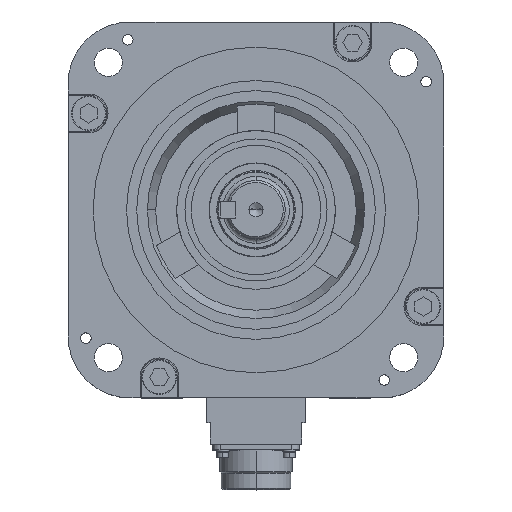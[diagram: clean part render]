
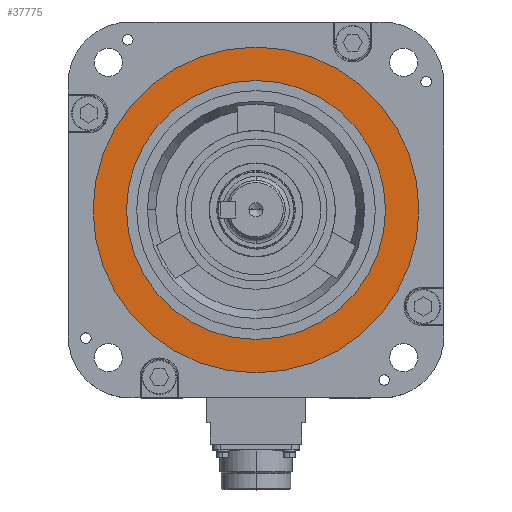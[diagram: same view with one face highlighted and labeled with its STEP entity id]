
A CAD part, top view. The second image highlights one B-rep face of the part: STEP entity #37775.
In plain terms, the highlighted planar face has unit normal (0, 0, 1).
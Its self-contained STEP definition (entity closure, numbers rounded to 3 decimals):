
#576 = DIRECTION ( 'NONE',  ( 0., 0., -1. ) ) ;
#1194 = DIRECTION ( 'NONE',  ( 1., 0., 0. ) ) ;
#2817 = EDGE_LOOP ( 'NONE', ( #29397, #26779 ) ) ;
#2958 = CARTESIAN_POINT ( 'NONE',  ( -62., 0., -0.5 ) ) ;
#3157 = EDGE_CURVE ( 'NONE', #36955, #32010, #3349, .T. ) ;
#3349 = CIRCLE ( 'NONE', #26756, 62. ) ;
#3446 = CARTESIAN_POINT ( 'NONE',  ( 0., 0., -0.5 ) ) ;
#4073 = CIRCLE ( 'NONE', #12555, 62. ) ;
#4376 = EDGE_CURVE ( 'NONE', #27168, #16687, #20322, .T. ) ;
#4964 = CARTESIAN_POINT ( 'NONE',  ( 0., 0., -0.5 ) ) ;
#5950 = CARTESIAN_POINT ( 'NONE',  ( 78., 0., -0.5 ) ) ;
#6302 = DIRECTION ( 'NONE',  ( 1., 0., 0. ) ) ;
#7089 = CARTESIAN_POINT ( 'NONE',  ( 62., 0., -0.5 ) ) ;
#10925 = EDGE_LOOP ( 'NONE', ( #34497, #34754 ) ) ;
#12555 = AXIS2_PLACEMENT_3D ( 'NONE', #4964, #17427, #38779 ) ;
#13045 = CARTESIAN_POINT ( 'NONE',  ( 0., 0., -0.5 ) ) ;
#16687 = VERTEX_POINT ( 'NONE', #21493 ) ;
#17168 = AXIS2_PLACEMENT_3D ( 'NONE', #20335, #38822, #22988 ) ;
#17427 = DIRECTION ( 'NONE',  ( 0., 0., -1. ) ) ;
#18847 = AXIS2_PLACEMENT_3D ( 'NONE', #3446, #34195, #6302 ) ;
#19760 = CARTESIAN_POINT ( 'NONE',  ( 0., 0., -0.5 ) ) ;
#20322 = CIRCLE ( 'NONE', #39767, 78. ) ;
#20335 = CARTESIAN_POINT ( 'NONE',  ( -78.936, -78.936, -0.5 ) ) ;
#21127 = EDGE_CURVE ( 'NONE', #32010, #36955, #4073, .T. ) ;
#21493 = CARTESIAN_POINT ( 'NONE',  ( -78., 0., -0.5 ) ) ;
#22593 = DIRECTION ( 'NONE',  ( -1., 0., 0. ) ) ;
#22988 = DIRECTION ( 'NONE',  ( 1., 0., 0. ) ) ;
#23366 = FACE_OUTER_BOUND ( 'NONE', #10925, .T. ) ;
#26756 = AXIS2_PLACEMENT_3D ( 'NONE', #13045, #576, #22593 ) ;
#26779 = ORIENTED_EDGE ( 'NONE', *, *, #21127, .T. ) ;
#27168 = VERTEX_POINT ( 'NONE', #5950 ) ;
#28906 = FACE_BOUND ( 'NONE', #2817, .T. ) ;
#29107 = DIRECTION ( 'NONE',  ( 0., 0., 1. ) ) ;
#29216 = EDGE_CURVE ( 'NONE', #16687, #27168, #36330, .T. ) ;
#29397 = ORIENTED_EDGE ( 'NONE', *, *, #3157, .T. ) ;
#32010 = VERTEX_POINT ( 'NONE', #7089 ) ;
#34195 = DIRECTION ( 'NONE',  ( 0., 0., 1. ) ) ;
#34497 = ORIENTED_EDGE ( 'NONE', *, *, #4376, .T. ) ;
#34754 = ORIENTED_EDGE ( 'NONE', *, *, #29216, .T. ) ;
#36330 = CIRCLE ( 'NONE', #18847, 78. ) ;
#36955 = VERTEX_POINT ( 'NONE', #2958 ) ;
#37775 = ADVANCED_FACE ( 'NONE', ( #23366, #28906 ), #38442, .T. ) ;
#38442 = PLANE ( 'NONE',  #17168 ) ;
#38779 = DIRECTION ( 'NONE',  ( -1., 0., 0. ) ) ;
#38822 = DIRECTION ( 'NONE',  ( 0., 0., 1. ) ) ;
#39767 = AXIS2_PLACEMENT_3D ( 'NONE', #19760, #29107, #1194 ) ;
